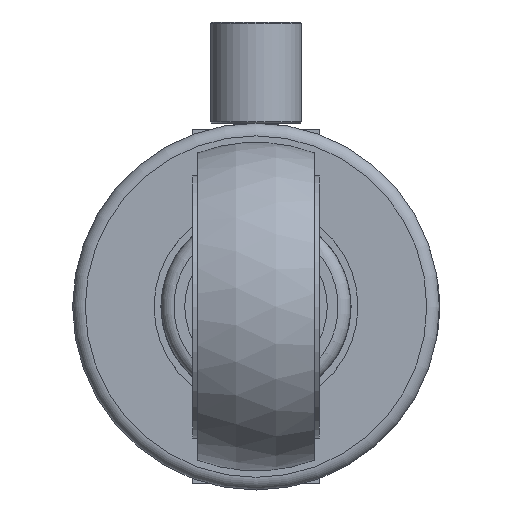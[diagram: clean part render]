
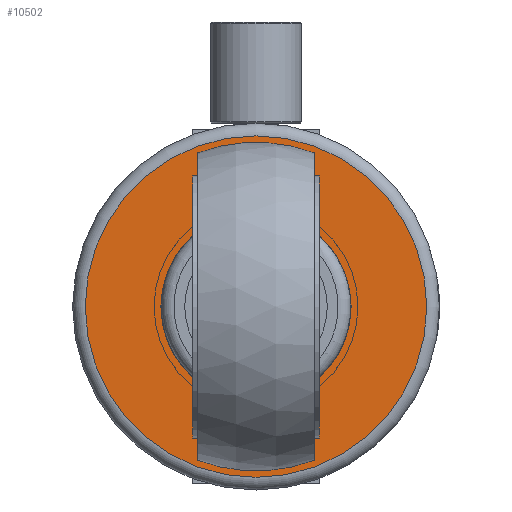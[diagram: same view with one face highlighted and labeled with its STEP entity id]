
A CAD part, front view. The second image highlights one B-rep face of the part: STEP entity #10502.
In plain terms, the highlighted planar face has unit normal (0, -1, 0) as drawn and (0, 0, -1) by its records, which use the part's own axes.
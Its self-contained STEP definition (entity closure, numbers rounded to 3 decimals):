
#1064=FACE_BOUND('',#3945,.T.);
#1300=PLANE('',#11140);
#3293=FACE_OUTER_BOUND('',#3944,.T.);
#3944=EDGE_LOOP('',(#9643));
#3945=EDGE_LOOP('',(#9644));
#4218=CIRCLE('',#11136,37.6);
#4221=CIRCLE('',#11141,67.5);
#5220=VERTEX_POINT('',#27397);
#5223=VERTEX_POINT('',#27407);
#6710=EDGE_CURVE('',#5220,#5220,#4218,.T.);
#6715=EDGE_CURVE('',#5223,#5223,#4221,.T.);
#9643=ORIENTED_EDGE('',*,*,#6715,.F.);
#9644=ORIENTED_EDGE('',*,*,#6710,.F.);
#10502=ADVANCED_FACE('',(#3293,#1064),#1300,.F.);
#11136=AXIS2_PLACEMENT_3D('',#27398,#12811,#12812);
#11140=AXIS2_PLACEMENT_3D('',#27406,#12821,#12822);
#11141=AXIS2_PLACEMENT_3D('',#27408,#12823,#12824);
#12811=DIRECTION('center_axis',(0.,0.,-1.));
#12812=DIRECTION('ref_axis',(-1.,0.,0.));
#12821=DIRECTION('center_axis',(0.,0.,1.));
#12822=DIRECTION('ref_axis',(1.,0.,0.));
#12823=DIRECTION('center_axis',(0.,0.,1.));
#12824=DIRECTION('ref_axis',(1.,0.,0.));
#27397=CARTESIAN_POINT('',(37.6,0.,0.));
#27398=CARTESIAN_POINT('Origin',(0.,0.,0.));
#27406=CARTESIAN_POINT('Origin',(0.,0.,0.));
#27407=CARTESIAN_POINT('',(-67.5,0.,0.));
#27408=CARTESIAN_POINT('Origin',(0.,0.,0.));
